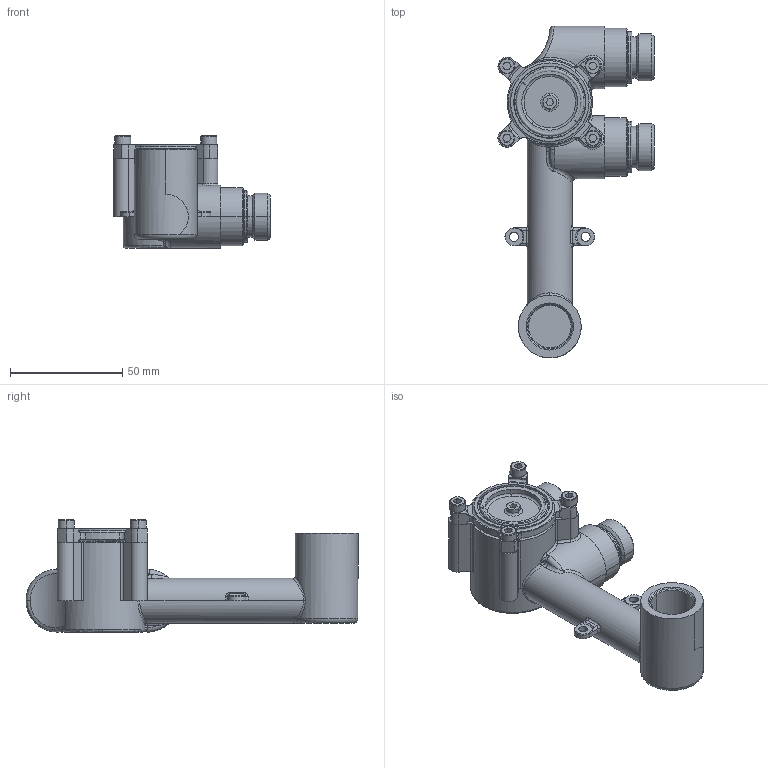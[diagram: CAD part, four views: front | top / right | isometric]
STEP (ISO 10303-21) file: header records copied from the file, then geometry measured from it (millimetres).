
FILE_DESCRIPTION((''),'2;1');
FILE_NAME('47049--00_ASM','2022-10-07T13:27:46',('sosm1'),(''),'CREO PARAMETRIC BY PTC INC, 2018190','CREO PARAMETRIC BY PTC INC, 2018190','');
FILE_SCHEMA(('CONFIG_CONTROL_DESIGN','SHAPE_APPEARANCE_LAYERS_GROUPS'));
Length unit declared in the file: millimetre
Products named in the file (8): 4496285; 4467385; 4608400_NEW; 06002444; 109244; 4499300_ASM; 4499100; 47049--00_ASM
Assembly tree (12 placements, depth 3):
  47049--00_ASM
    4496285
    4467385  x2
    4499300_ASM
      4608400_NEW
      06002444
      109244  x2
    4499100  x4
Bounding box: 69.65 x 148 x 50 mm (x, y, z)
Volume: 80997.6 mm3; surface area: 56379.7 mm2
Topology: 11 solids, 22 shells, 834 faces, 1969 edges, 1178 vertices
Faces by surface type: cylinder 309, plane 183, bspline 126, torus 108, cone 88, sphere 20
Entity records: 29696 total; most frequent: CARTESIAN_POINT 12195, ORIENTED_EDGE 3252, DIRECTION 3246, EDGE_CURVE 1650, AXIS2_PLACEMENT_3D 1362, VERTEX_POINT 994, CIRCLE 768, EDGE_LOOP 740
